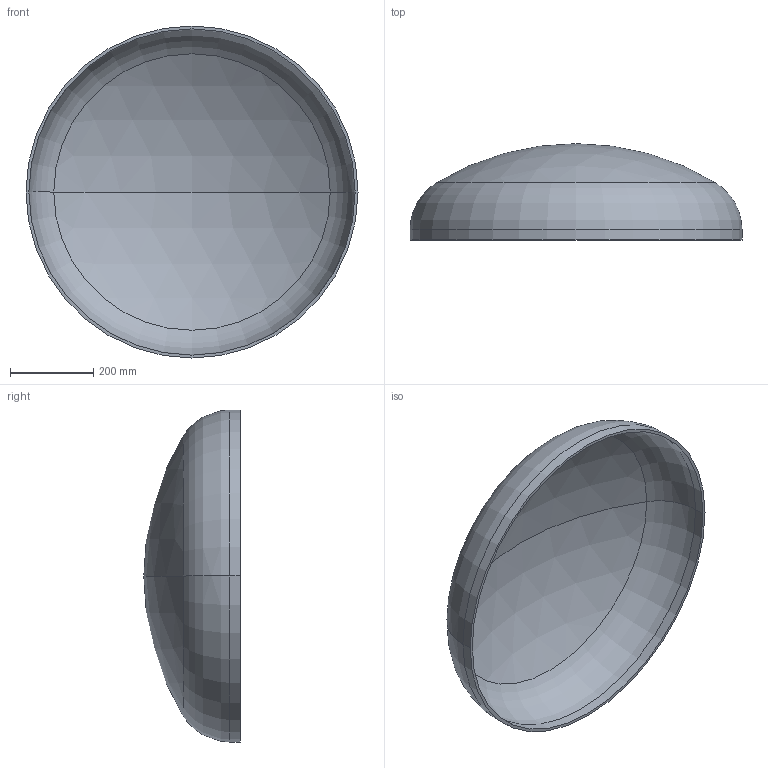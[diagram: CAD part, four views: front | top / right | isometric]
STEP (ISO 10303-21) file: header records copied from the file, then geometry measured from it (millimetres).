
FILE_DESCRIPTION (( 'STEP AP203' ), '1' );
FILE_NAME ('DIN 28013 Korbbogenform_-_Boden DIN 28013 - 800 x 25 - I - s=7.step', '2016-07-01T08:12:01', ( '' ), ( '' ), 'SwSTEP 2.0', 'SolidWorks 2013', '' );
FILE_SCHEMA (( 'CONFIG_CONTROL_DESIGN' ));
Length unit declared in the file: millimetre
Products named in the file (1): DIN 28013 Korbbogenform_-_Boden DIN 28013 - 800 x 25 - I - s=7
Bounding box: 800 x 232.23 x 800 mm (x, y, z)
Volume: 5266896.3 mm3; surface area: 1522368.6 mm2
Topology: 1 solids, 1 shells, 13 faces, 24 edges, 14 vertices
Faces by surface type: torus 4, cylinder 4, sphere 4, plane 1
Entity records: 407 total; most frequent: DIRECTION 72, CARTESIAN_POINT 52, ORIENTED_EDGE 48, AXIS2_PLACEMENT_3D 34, EDGE_CURVE 24, CIRCLE 20, EDGE_LOOP 14, VERTEX_POINT 14
